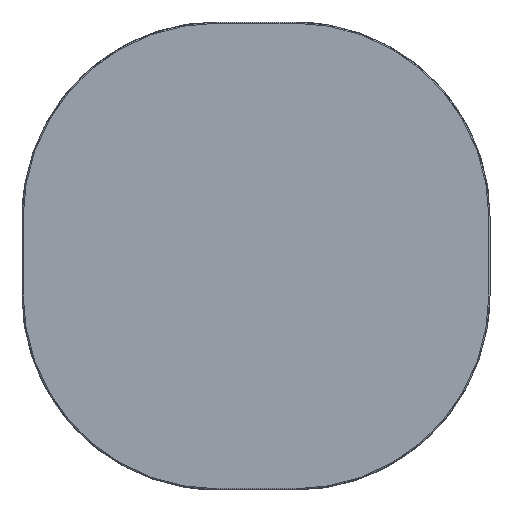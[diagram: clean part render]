
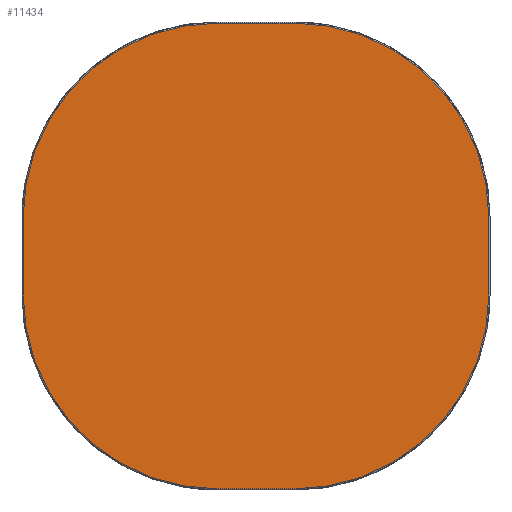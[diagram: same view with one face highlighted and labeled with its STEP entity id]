
A CAD part, top view. The second image highlights one B-rep face of the part: STEP entity #11434.
In plain terms, the highlighted planar face has unit normal (0, 0, 1).
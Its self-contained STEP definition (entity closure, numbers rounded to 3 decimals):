
#11344=CARTESIAN_POINT('',(0.,0.,20.));
#11345=DIRECTION('',(1.,0.,0.));
#11346=DIRECTION('',(0.,0.,1.));
#11347=AXIS2_PLACEMENT_3D('',#11344,#11346,#11345);
#11348=PLANE('',#11347);
#11349=CARTESIAN_POINT('',(-50.,-298.5,20.));
#11350=VERTEX_POINT('',#11349);
#11351=CARTESIAN_POINT('',(50.,-298.5,20.));
#11352=VERTEX_POINT('',#11351);
#11353=CARTESIAN_POINT('',(-50.,-298.5,20.));
#11354=DIRECTION('',(1.,0.,0.));
#11355=VECTOR('',#11354,100.);
#11356=LINE('',#11353,#11355);
#11357=EDGE_CURVE('',#11350,#11352,#11356,.T.);
#11358=ORIENTED_EDGE('E105',*,*,#11357,.T.);
#11359=CARTESIAN_POINT('',(298.5,-50.,20.));
#11360=VERTEX_POINT('',#11359);
#11361=CARTESIAN_POINT('',(50.,-50.,20.));
#11362=DIRECTION('',(0.,-1.,0.));
#11363=DIRECTION('',(0.,0.,1.));
#11364=AXIS2_PLACEMENT_3D('',#11361,#11363,#11362);
#11365=CIRCLE('',#11364,248.5);
#11366=EDGE_CURVE('',#11352,#11360,#11365,.T.);
#11367=ORIENTED_EDGE('E107',*,*,#11366,.T.);
#11368=CARTESIAN_POINT('',(298.5,50.001,20.));
#11369=VERTEX_POINT('',#11368);
#11370=CARTESIAN_POINT('',(298.5,-50.,20.));
#11371=CARTESIAN_POINT('',(298.5,-23.745,20.));
#11372=CARTESIAN_POINT('',(298.501,26.256,20.));
#11373=CARTESIAN_POINT('',(298.5,50.001,20.));
#11374=B_SPLINE_CURVE_WITH_KNOTS('',2,(#11370,#11371,#11372,#11373),.UNSPECIFIED.,.F.,.U.,(3,1,3),(0.,0.525,1.),.UNSPECIFIED.);
#11375=EDGE_CURVE('',#11360,#11369,#11374,.T.);
#11376=ORIENTED_EDGE('E109',*,*,#11375,.T.);
#11377=CARTESIAN_POINT('',(50.,298.5,20.));
#11378=VERTEX_POINT('',#11377);
#11379=CARTESIAN_POINT('',(50.,50.,20.));
#11380=DIRECTION('',(1.,0.,0.));
#11381=DIRECTION('',(0.,0.,1.));
#11382=AXIS2_PLACEMENT_3D('',#11379,#11381,#11380);
#11383=CIRCLE('',#11382,248.5);
#11384=EDGE_CURVE('',#11369,#11378,#11383,.T.);
#11385=ORIENTED_EDGE('E111',*,*,#11384,.T.);
#11386=CARTESIAN_POINT('',(-50.001,298.5,20.));
#11387=VERTEX_POINT('',#11386);
#11388=CARTESIAN_POINT('',(50.,298.5,20.));
#11389=CARTESIAN_POINT('',(44.06,298.499,20.));
#11390=CARTESIAN_POINT('',(33.903,298.5,20.));
#11391=CARTESIAN_POINT('',(23.359,298.5,20.));
#11392=CARTESIAN_POINT('',(7.191,298.5,20.));
#11393=CARTESIAN_POINT('',(-12.023,298.5,20.));
#11394=CARTESIAN_POINT('',(-27.644,298.501,20.));
#11395=CARTESIAN_POINT('',(-38.058,298.499,20.));
#11396=CARTESIAN_POINT('',(-46.112,298.498,20.));
#11397=CARTESIAN_POINT('',(-50.001,298.5,20.));
#11398=B_SPLINE_CURVE_WITH_KNOTS('',2,(#11388,#11389,#11390,#11391,#11392,#11393,#11394,#11395,#11396,#11397),.UNSPECIFIED.,.F.,.U.,(3,1,1,1,1,1,1,1,3),(0.,0.119,0.203,0.33,0.527,0.714,0.839,0.922,1.),.UNSPECIFIED.);
#11399=EDGE_CURVE('',#11378,#11387,#11398,.T.);
#11400=ORIENTED_EDGE('E113',*,*,#11399,.T.);
#11401=CARTESIAN_POINT('',(-298.5,50.,20.));
#11402=VERTEX_POINT('',#11401);
#11403=CARTESIAN_POINT('',(-50.,50.,20.));
#11404=DIRECTION('',(0.,1.,0.));
#11405=DIRECTION('',(0.,0.,1.));
#11406=AXIS2_PLACEMENT_3D('',#11403,#11405,#11404);
#11407=CIRCLE('',#11406,248.5);
#11408=EDGE_CURVE('',#11387,#11402,#11407,.T.);
#11409=ORIENTED_EDGE('E115',*,*,#11408,.T.);
#11410=CARTESIAN_POINT('',(-298.5,-50.001,20.));
#11411=VERTEX_POINT('',#11410);
#11412=CARTESIAN_POINT('',(-298.5,50.,20.));
#11413=CARTESIAN_POINT('',(-298.499,44.06,20.));
#11414=CARTESIAN_POINT('',(-298.5,33.903,20.));
#11415=CARTESIAN_POINT('',(-298.5,23.359,20.));
#11416=CARTESIAN_POINT('',(-298.5,7.191,20.));
#11417=CARTESIAN_POINT('',(-298.5,-12.023,20.));
#11418=CARTESIAN_POINT('',(-298.501,-27.644,20.));
#11419=CARTESIAN_POINT('',(-298.499,-38.058,20.));
#11420=CARTESIAN_POINT('',(-298.498,-46.112,20.));
#11421=CARTESIAN_POINT('',(-298.5,-50.001,20.));
#11422=B_SPLINE_CURVE_WITH_KNOTS('',2,(#11412,#11413,#11414,#11415,#11416,#11417,#11418,#11419,#11420,#11421),.UNSPECIFIED.,.F.,.U.,(3,1,1,1,1,1,1,1,3),(0.,0.119,0.203,0.33,0.527,0.714,0.839,0.922,1.),.UNSPECIFIED.);
#11423=EDGE_CURVE('',#11402,#11411,#11422,.T.);
#11424=ORIENTED_EDGE('E117',*,*,#11423,.T.);
#11425=CARTESIAN_POINT('',(-50.,-50.,20.));
#11426=DIRECTION('',(-1.,0.,0.));
#11427=DIRECTION('',(0.,0.,1.));
#11428=AXIS2_PLACEMENT_3D('',#11425,#11427,#11426);
#11429=CIRCLE('',#11428,248.5);
#11430=EDGE_CURVE('',#11411,#11350,#11429,.T.);
#11431=ORIENTED_EDGE('E119',*,*,#11430,.T.);
#11432=EDGE_LOOP('',(#11358,#11367,#11376,#11385,#11400,#11409,#11424,#11431));
#11433=FACE_OUTER_BOUND('',#11432,.T.);
#11434=ADVANCED_FACE('F2',(#11433),#11348,.T.);
